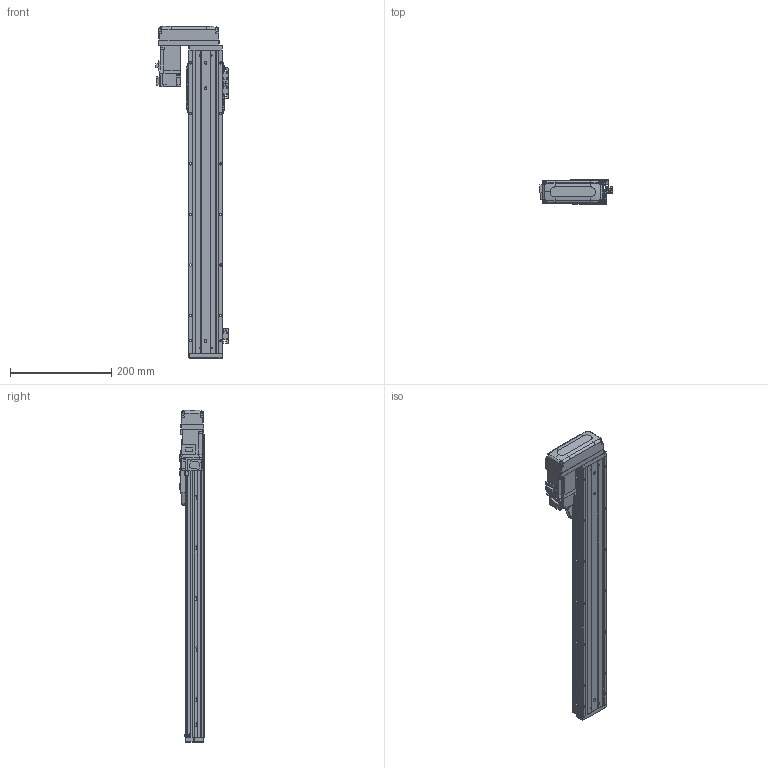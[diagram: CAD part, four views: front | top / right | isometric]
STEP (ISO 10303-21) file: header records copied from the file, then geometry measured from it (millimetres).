
FILE_DESCRIPTION (( 'STEP AP203' ), '1' );
FILE_NAME ('CTHA60-450-BR-M10-C4L.step', '2022-03-19T06:22:13', ( '微软用户' ), ( '微软中国' ), 'SwSTEP 2.0', 'SolidWorks 2020', '' );
FILE_SCHEMA (( 'CONFIG_CONTROL_DESIGN' ));
Length unit declared in the file: millimetre
Products named in the file (18): CTHA60-004; GBT77-2000 M3×3; CTHA60-006-1; CTHA60-005; GBT 70.1-M3℅6; CTHA60-033; GB¨uT 70.2-M3¡Á6_M3¡Á6; GBT 70.3-M3℅6; CTHA60-450-BR-M10-C4L; EE_SX911P_R; CTHA60-016; CTHA60-017; HG-KR13（三菱）; CTHA60-021; CTHA60-002; CTHA60-001_600; GBT 70.1-M4×16; CTHA60-031
Assembly tree (54 placements, depth 2):
  CTHA60-450-BR-M10-C4L
    CTHA60-001_600
    CTHA60-004
    CTHA60-005
    GB¨uT 70.2-M3¡Á6_M3¡Á6  x10
    EE_SX911P_R  x3
    CTHA60-017  x3
    CTHA60-021  x2
    GBT 70.1-M4×16  x10
    GBT77-2000 M3×3  x6
    GBT 70.1-M3℅6  x6
    GBT 70.3-M3℅6  x4
    CTHA60-016  x2
    HG-KR13（三菱）
    CTHA60-002
    CTHA60-031
    CTHA60-006-1
    CTHA60-033
Bounding box: 143.62 x 48 x 657 mm (x, y, z)
Volume: 1188559.7 mm3; surface area: 363735.8 mm2
Topology: 56 solids, 56 shells, 2514 faces, 6037 edges, 3721 vertices
Faces by surface type: plane 1449, cylinder 577, cone 340, torus 92, bspline 32, sphere 24
Entity records: 45011 total; most frequent: CARTESIAN_POINT 8698, DIRECTION 6946, ORIENTED_EDGE 6882, EDGE_CURVE 3441, VECTOR 2442, LINE 2442, AXIS2_PLACEMENT_3D 2252, VERTEX_POINT 2180
